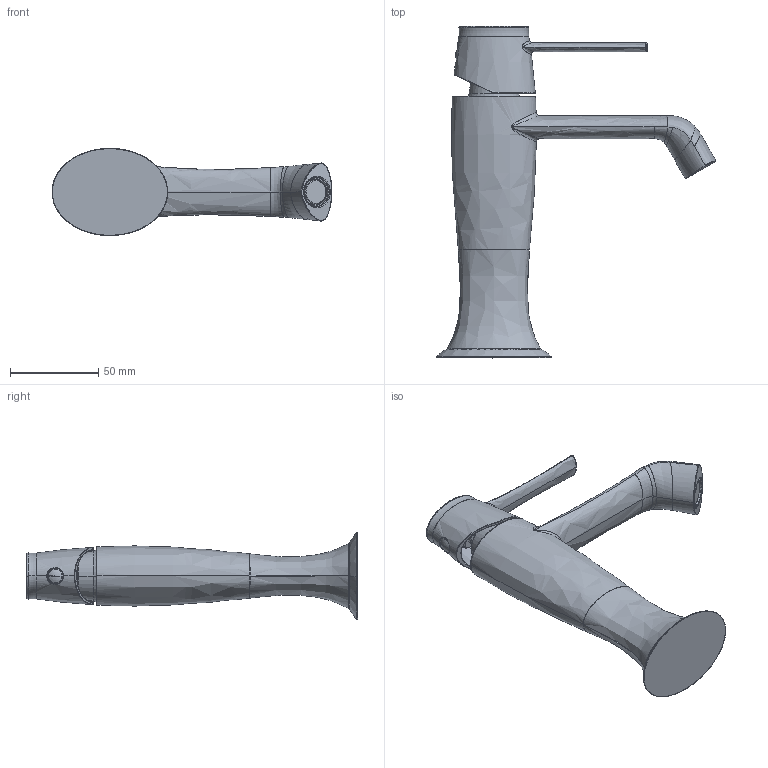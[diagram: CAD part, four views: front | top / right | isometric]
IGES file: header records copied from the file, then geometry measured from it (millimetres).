
Start section:  PTC IGES file: 58050.igs
Global section: file name: 58050.igs; native system: Creo Parametric by PTC Inc.; preprocessor: 2018100; author: carloff; organization: Unknown; date: 20210317.154131; units: millimetre
Bounding box: 158.13 x 187.6 x 49.3 mm (x, y, z)
Surface area: 46143.8 mm2 (no closed solid volume)
Topology: 0 solids, 0 shells, 342 faces, 1656 edges, 1654 vertices
Faces by surface type: bspline 212, revolution 124, extrusion 6
